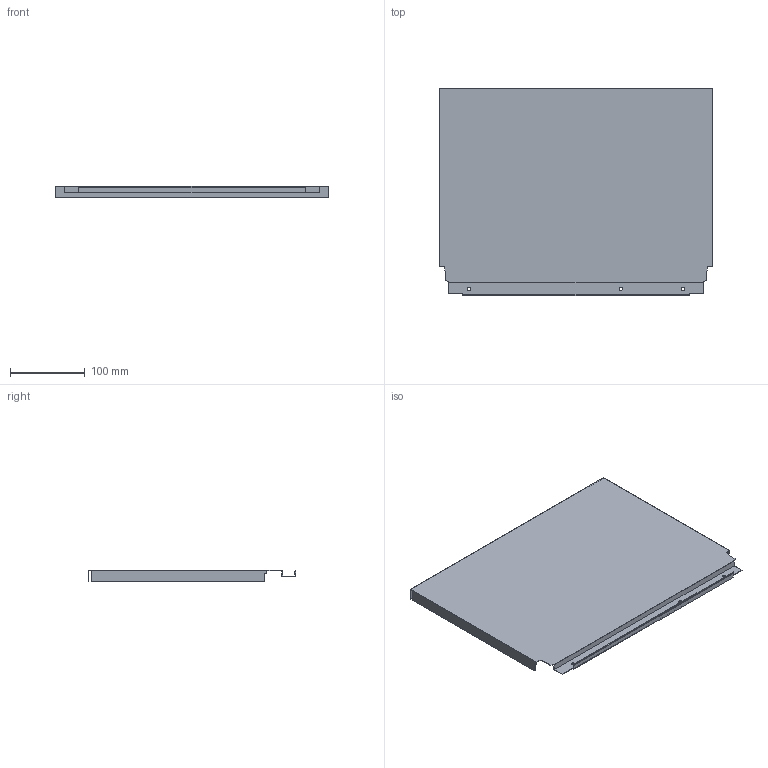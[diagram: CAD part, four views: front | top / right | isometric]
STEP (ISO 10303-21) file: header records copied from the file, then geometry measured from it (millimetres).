
FILE_DESCRIPTION (( 'STEP AP214' ), '1' );
FILE_NAME ('_DWD_XP Stahlrückwand_H278_KAB450_S16.step', '2010-07-08T13:03:45', ( 'grass' ), ( '' ), 'SwSTEP 2.0', 'SolidWorks 2010', '' );
FILE_SCHEMA (( 'AUTOMOTIVE_DESIGN' ));
Length unit declared in the file: millimetre
Products named in the file (1): _DWD_XP Stahlrückwand_H278_KAB450_S16
Bounding box: 367 x 278.57 x 16 mm (x, y, z)
Volume: 104483.6 mm3; surface area: 238706.8 mm2
Topology: 1 solids, 1 shells, 46 faces, 132 edges, 88 vertices
Faces by surface type: plane 40, cylinder 6
Entity records: 1534 total; most frequent: CARTESIAN_POINT 267, ORIENTED_EDGE 264, DIRECTION 238, EDGE_CURVE 132, VECTOR 120, LINE 120, VERTEX_POINT 88, AXIS2_PLACEMENT_3D 59
